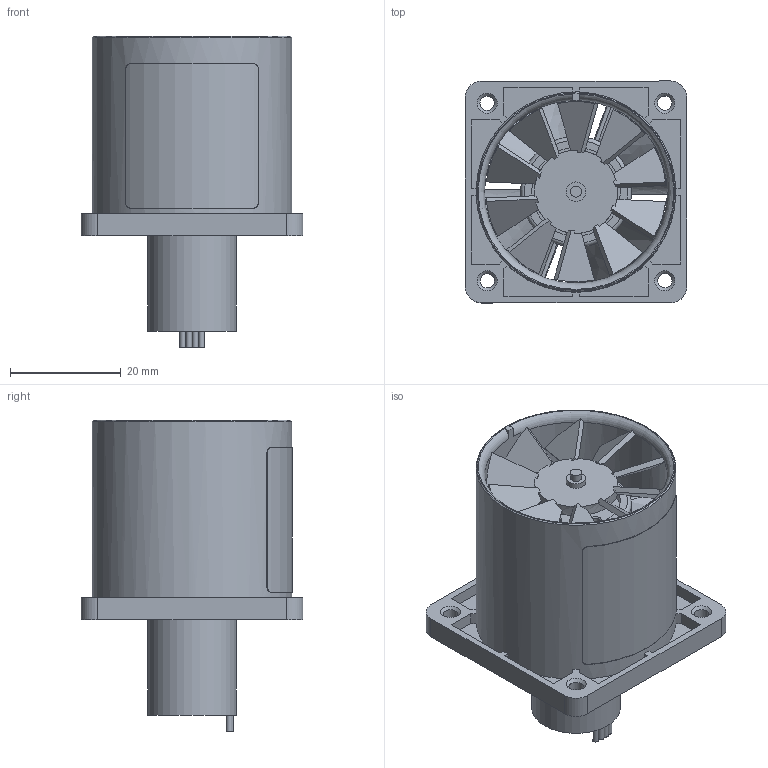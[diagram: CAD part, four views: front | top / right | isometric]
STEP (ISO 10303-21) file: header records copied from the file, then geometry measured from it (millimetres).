
FILE_DESCRIPTION(/* description */ (''),/* implementation_level */ '2;1');
FILE_NAME(/* name */ 'Fan D343P-012024KM-4.stp',/* time_stamp */ '2020-07-06T10:59:17+02:00',/* author */ (''),/* organization */ (''),/* preprocessor_version */ 'ST-DEVELOPER v16',/* originating_system */ 'SIEMENS PLM Software NX 11.0',/* authorisation */ '');
FILE_SCHEMA (('AUTOMOTIVE_DESIGN { 1 0 10303 214 3 1 1 1 }'));
Length unit declared in the file: millimetre
Products named in the file (1): 015814_1-Fan D343P-012024KM-4 _-_
Bounding box: 40.02 x 40.02 x 56.2 mm (x, y, z)
Surface area: 16461.1 mm2 (no closed solid volume)
Topology: 0 solids, 1 shells, 225 faces, 618 edges, 408 vertices
Faces by surface type: plane 124, cylinder 49, bspline 32, cone 17, torus 3
Full cylindrical faces by diameter (mm): 1.05 x4, 1.6 x4, 2 x2, 2.5 x1, 2.6 x4, 3.5 x2, 4.7 x1, 15 x1, 16 x2, 20 x1, 33 x1, 36 x1
Entity records: 8452 total; most frequent: CARTESIAN_POINT 2947, ORIENTED_EDGE 1098, DIRECTION 1018, EDGE_CURVE 549, VERTEX_POINT 389, AXIS2_PLACEMENT_3D 387, EDGE_LOOP 300, LINE 244
